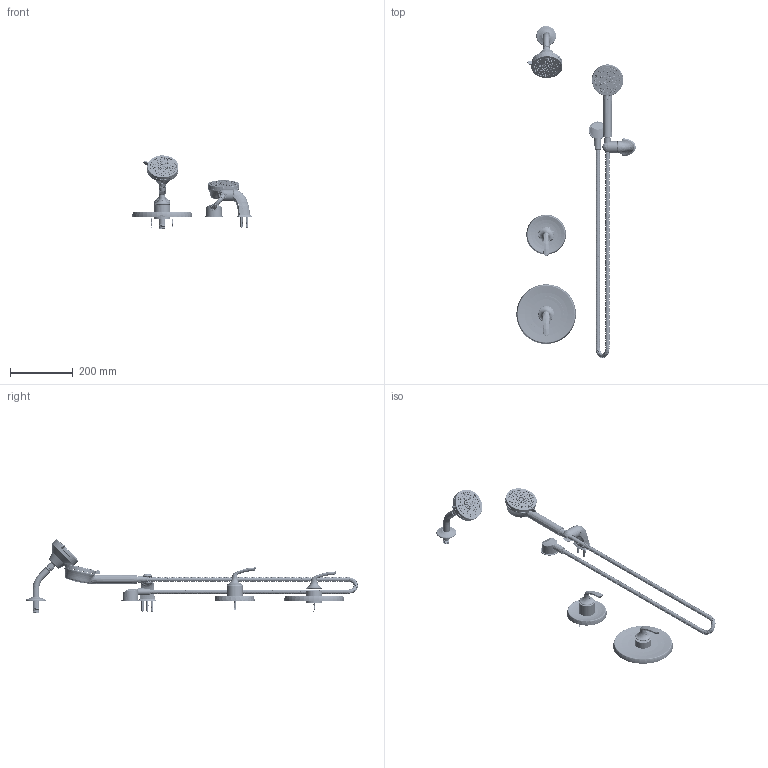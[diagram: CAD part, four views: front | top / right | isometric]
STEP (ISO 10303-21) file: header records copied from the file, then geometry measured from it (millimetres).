
FILE_DESCRIPTION (( 'STEP AP203' ), '1' );
FILE_NAME ('5595.STEP', '2025-01-16T21:55:26', ( '' ), ( '' ), 'SwSTEP 2.0', 'SolidWorks 2023', '' );
FILE_SCHEMA (( 'CONFIG_CONTROL_DESIGN' ));
Products named in the file (1): 5595
Bounding box: 381.69 x 1061.02 x 234.14 mm (x, y, z)
Surface area: 440899.1 mm2 (no closed solid volume)
Topology: 0 solids, 426 shells, 2330 faces, 8675 edges, 6561 vertices
Faces by surface type: cylinder 647, plane 587, bspline 546, cone 406, torus 104, sphere 40
Entity records: 608388 total; most frequent: CARTESIAN_POINT 544776, ORIENTED_EDGE 12508, DIRECTION 10332, EDGE_CURVE 8664, VERTEX_POINT 6558, AXIS2_PLACEMENT_3D 3891, B_SPLINE_CURVE_WITH_KNOTS 3830, EDGE_LOOP 2914
